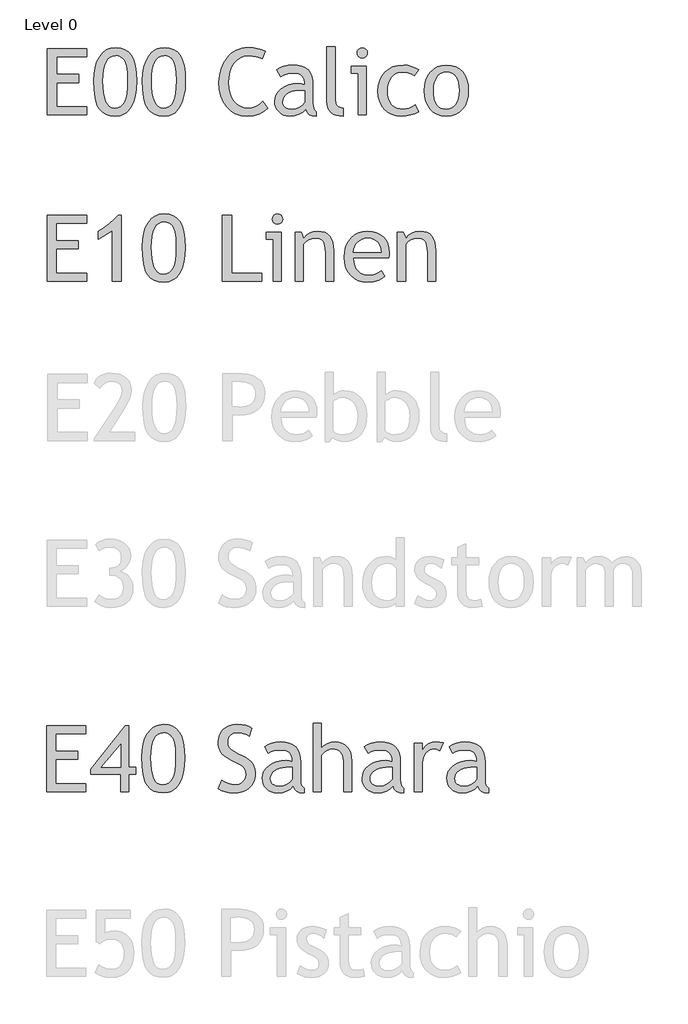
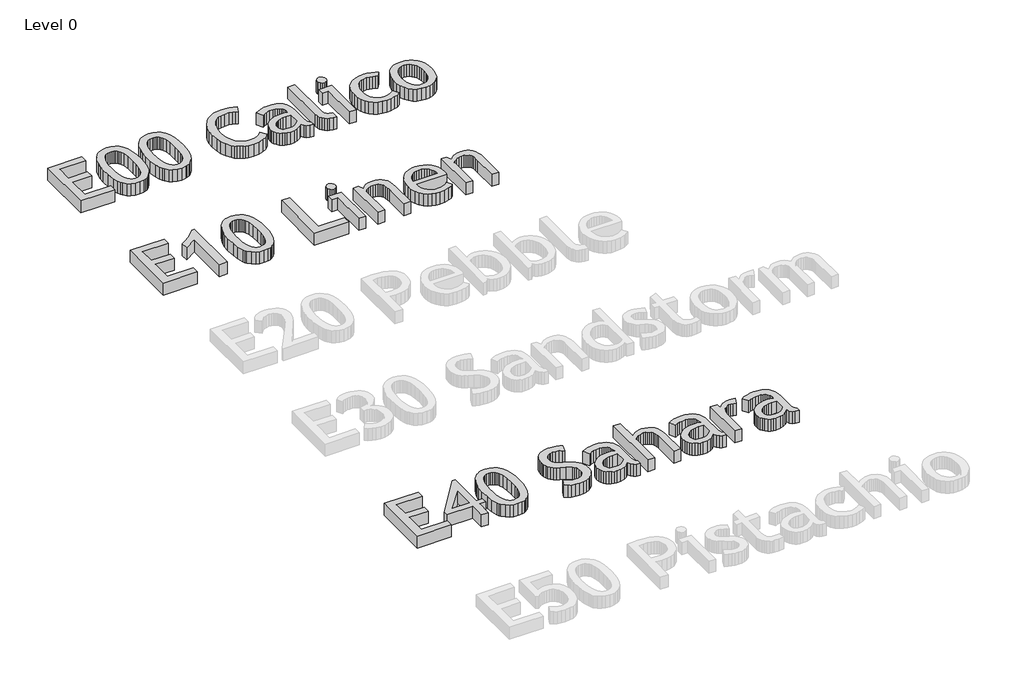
# One storey, part 3 of 5: 3 proxies.
"""IFC4 building model written with IfcOpenShell, lengths in millimetres."""

import ifcopenshell
import ifcopenshell.guid

model = None  # the IFC model being written
_history = None  # IfcOwnerHistory: only IFC2X3 demands one
_inside = {}  # id of a spatial element -> (the spatial element, [elements in it])
_under = {}  # id of a project, library or spatial element -> (it, [spatial elements below it])
_declared = {}  # id of a project -> (the project, [libraries it declares])
_typed = {}  # id of a type object -> (the type object, [elements of that type])
_made_of = {}  # id of a material, layer set ... -> (it, [elements and type objects made of it])


def new_model(schema):
    """Start an empty IFC model of exactly this schema.

    Asked for "IFC4X3", IfcOpenShell would pick the latest addendum, in which some entities
    have other attributes; the version numbers below select the first issue.
    IFC2X3 requires an IfcOwnerHistory on every rooted entity: one is made here for all.
    """
    global model, _history
    if schema == "IFC4X3":
        model = ifcopenshell.file(schema_version=(4, 3, 0, 0))
    else:
        model = ifcopenshell.file(schema=schema)
    _inside.clear()
    _under.clear()
    _declared.clear()
    _typed.clear()
    _made_of.clear()
    _history = None
    if model.schema == "IFC2X3":
        org = make("IfcOrganization", Name="unknown")
        user = make(
            "IfcPersonAndOrganization",
            ThePerson=make("IfcPerson", FamilyName="unknown"),
            TheOrganization=org,
        )
        app = make(
            "IfcApplication",
            ApplicationDeveloper=org,
            Version="unknown",
            ApplicationFullName="unknown",
            ApplicationIdentifier="unknown",
        )
        _history = make(
            "IfcOwnerHistory",
            OwningUser=user,
            OwningApplication=app,
            ChangeAction="ADDED",
            CreationDate=0,
        )
    return model


def make(cls, **values):
    """One entity of the class cls with the attributes given. An attribute that is None is left unset."""
    return model.create_entity(
        cls, **{name: value for name, value in values.items() if value is not None}
    )


def rooted(cls, **values):
    """An entity with a GlobalId (a new one), such as an element, a storey or a relation."""
    return make(cls, GlobalId=ifcopenshell.guid.new(), OwnerHistory=_history, **values)


def si_unit(unit_type, name, prefix=None):
    """IfcSIUnit, for example si_unit("LENGTHUNIT", "METRE", prefix="MILLI")."""
    return make("IfcSIUnit", UnitType=unit_type, Prefix=prefix, Name=name)


def assignment(units):
    """IfcUnitAssignment: the units of a project."""
    return None if units is None else make("IfcUnitAssignment", Units=units)


def point(xyz):
    """IfcCartesianPoint."""
    return None if xyz is None else make("IfcCartesianPoint", Coordinates=xyz)


def direction(xyz):
    """IfcDirection."""
    return None if xyz is None else make("IfcDirection", DirectionRatios=xyz)


def frame(location, z_axis=None, x_axis=None):
    """IfcAxis2Placement3D, a coordinate frame: its origin and axes. An axis left out is left unset."""
    return make(
        "IfcAxis2Placement3D",
        Location=point(location),
        Axis=direction(z_axis),
        RefDirection=direction(x_axis),
    )


def origin():
    """The frame at (0, 0, 0) with its axes left unset."""
    return frame((0.0, 0.0, 0.0))


def origin_with_axes():
    """The frame at (0, 0, 0) with the z axis (0, 0, 1) and the x axis (1, 0, 0) written out."""
    return frame((0.0, 0.0, 0.0), z_axis=(0.0, 0.0, 1.0), x_axis=(1.0, 0.0, 0.0))


def place(relative_to, where):
    """IfcLocalPlacement: puts the frame where relative to a parent placement (None: the world)."""
    return make(
        "IfcLocalPlacement", PlacementRelTo=relative_to, RelativePlacement=where
    )


def context(
    kind, dimensions, precision=None, world=None, true_north=None, identifier=None
):
    """IfcGeometricRepresentationContext, for example the 3D "Model" context."""
    return make(
        "IfcGeometricRepresentationContext",
        ContextIdentifier=identifier,
        ContextType=kind,
        CoordinateSpaceDimension=dimensions,
        Precision=precision,
        WorldCoordinateSystem=world,
        TrueNorth=true_north,
    )


def project(units=None, contexts=None):
    """IfcProject with its units and contexts."""
    return rooted(
        "IfcProject",
        Name="project",
        RepresentationContexts=contexts,
        UnitsInContext=assignment(units),
    )


def spatial(cls, under=None, at=None, **own):
    """A site, building, storey or space (cls), placed at a placement, below another one or the project."""
    s = rooted(cls, ObjectPlacement=at, **own)
    if under is not None:
        _under.setdefault(under.id(), (under, []))[1].append(s)
    return s


def polyline(points):
    """IfcPolyline through the points."""
    return make("IfcPolyline", Points=[point(p) for p in points])


def outline(outer, holes=None, kind="AREA"):
    """IfcArbitraryClosedProfileDef: a profile drawn as a closed curve; with holes, ...WithVoids."""
    if holes is None:
        return make("IfcArbitraryClosedProfileDef", ProfileType=kind, OuterCurve=outer)
    return make(
        "IfcArbitraryProfileDefWithVoids",
        ProfileType=kind,
        OuterCurve=outer,
        InnerCurves=holes,
    )


def extrude(swept, where, along, depth):
    """IfcExtrudedAreaSolid: the profile swept, set in the frame where, extruded along a direction by depth."""
    return make(
        "IfcExtrudedAreaSolid",
        SweptArea=swept,
        Position=where,
        ExtrudedDirection=direction(along),
        Depth=depth,
    )


def shape(context_of_items, identifier, shape_type, items):
    """IfcShapeRepresentation: the items that make up one representation, for example the "Body"."""
    return make(
        "IfcShapeRepresentation",
        ContextOfItems=context_of_items,
        RepresentationIdentifier=identifier,
        RepresentationType=shape_type,
        Items=items,
    )


def made_of(thing, what):
    """Note that an element or type object is made of a material, layer set ...; save() writes the relation."""
    if what is not None:
        _made_of.setdefault(what.id(), (what, []))[1].append(thing)
    return thing


def element(
    cls,
    number,
    at=None,
    inside=None,
    cuts=None,
    type_object=None,
    material=None,
    context=None,
    identifier="Body",
    shape_type=None,
    held_by="IfcProductDefinitionShape",
    body=None,
    shapes=None,
    **own,
):
    """One element of the class cls, such as IfcWall. Its Tag is "e" and its number.

    at: its placement. inside: the storey or other place that contains it. cuts: it is an
    opening in that element (IfcRelVoidsElement). A single representation is given by context,
    identifier, shape_type and body (its items); several are given by shapes. held_by: the class
    of the entity that holds the representations. save() writes the other relations.
    """
    e = rooted(cls, Tag="e%d" % number, ObjectPlacement=at, **own)
    if body is not None:
        shapes = [shape(context, identifier, shape_type, body)]
    if shapes is not None:
        e.Representation = make(held_by, Representations=shapes)
    if inside is not None:
        _inside.setdefault(inside.id(), (inside, []))[1].append(e)
    if cuts is not None:
        rooted(
            "IfcRelVoidsElement", RelatingBuildingElement=cuts, RelatedOpeningElement=e
        )
    if type_object is not None:
        _typed.setdefault(type_object.id(), (type_object, []))[1].append(e)
    return made_of(e, material)


def aggregate(whole, parts):
    """IfcRelAggregates: a whole, such as a stair, and the parts it consists of."""
    return rooted("IfcRelAggregates", RelatingObject=whole, RelatedObjects=parts)


def save(model, path):
    """Write the relations noted so far, then the file.

    IfcRelAggregates (storeys below a building ...), IfcRelContainedInSpatialStructure (elements
    in a storey), IfcRelDefinesByType, IfcRelAssociatesMaterial and IfcRelDeclares: one each for
    every whole, place, type object, material and project.
    """
    for whole, parts in _under.values():
        aggregate(whole, parts)
    for where, things in _inside.values():
        rooted(
            "IfcRelContainedInSpatialStructure",
            RelatedElements=things,
            RelatingStructure=where,
        )
    for kind, things in _typed.values():
        rooted("IfcRelDefinesByType", RelatedObjects=things, RelatingType=kind)
    for what, things in _made_of.values():
        rooted("IfcRelAssociatesMaterial", RelatedObjects=things, RelatingMaterial=what)
    for by, libraries in _declared.values():
        rooted("IfcRelDeclares", RelatingContext=by, RelatedDefinitions=libraries)
    model.write(path)


model = new_model("IFC4")

# Units and contexts
model_context = context("Model", 3, world=origin())
ifc_project = project(units=[si_unit("LENGTHUNIT", "METRE", prefix="MILLI")], contexts=[model_context])

# Site, building, storey
site = spatial("IfcSite", under=ifc_project)
building = spatial("IfcBuilding", under=site)
storey = spatial("IfcBuildingStorey", under=building, Name="Level 0", Elevation=0.0)

# Proxies
placement = place(None, origin())
element("IfcBuildingElementProxy", 1, Name="600mm Arial", ObjectType="600mm Arial", at=placement, inside=storey, context=model_context, shape_type="SweptSolid", body=[
    extrude(outline(polyline([(-18097.6502143, 6574.8338148), (-18097.6502143, 6396.8677131), (-17872.2264855, 6396.8677131), (-17872.2264855, 6313.8168656), (-18097.6502143, 6313.8168656), (-18097.6502143, 6064.6643233), (-17789.1756381, 6064.6643233), (-17789.1756381, 5981.6134758), (-18192.5654686, 5981.6134758), (-18192.5654686, 6657.8846623), (-17789.1756381, 6657.8846623), (-17789.1756381, 6574.8338148), (-18097.6502143, 6574.8338148)])), origin_with_axes(), (0.0, 0.0, 1.0), 150.0),
    extrude(outline(polyline([(-17717.9891974, 6339.0287301), (-17714.2873634, 6408.7842584), (-17703.1818616, 6471.7849536), (-17684.6726918, 6528.0308156), (-17658.7598542, 6577.5218445), (-17626.1385287, 6617.8712552), (-17607.5728756, 6633.7228094), (-17587.5038955, 6646.6922629), (-17565.9315885, 6656.7796156), (-17542.8559545, 6663.9848675), (-17492.1947059, 6669.749069), (-17442.3039485, 6664.9407401), (-17399.0405745, 6650.5157534), (-17362.4045841, 6626.4741088), (-17332.3959771, 6592.8158063), (-17309.0379262, 6547.1772338), (-17292.3536042, 6487.1947788), (-17282.343011, 6412.8684414), (-17279.0061466, 6324.1982216), (-17282.5052196, 6246.0947391), (-17293.0024389, 6176.7736983), (-17310.4978044, 6116.2350992), (-17334.991316, 6064.4789419), (-17366.2164882, 6023.0346225), (-17384.2535148, 6006.7529256), (-17403.9068351, 5993.4315373), (-17425.1764491, 5983.0704574), (-17448.0623568, 5975.6696861), (-17498.6830533, 5969.749069), (-17549.3674747, 5974.5284321), (-17593.5287896, 5988.8665214), (-17631.166998, 6012.7633368), (-17662.2820999, 6046.2188784), (-17675.3384509, 6067.5218031), (-17686.6539551, 6093.1956726), (-17704.062423, 6157.6562459), (-17714.5075038, 6239.6005984), (-17717.9891974, 6339.0287301)]), holes=[polyline([(-17623.0739432, 6330.5011877), (-17621.2288194, 6265.4149522), (-17615.6934479, 6209.0068815), (-17606.4678289, 6161.2769756), (-17593.5519622, 6122.2252343), (-17576.945848, 6091.8516578), (-17556.6494861, 6070.1562459), (-17532.6628766, 6057.1389989), (-17504.9860194, 6052.7999165), (-17473.4769821, 6056.6465796), (-17446.4286836, 6068.186569), (-17423.841124, 6087.4198847), (-17405.7143033, 6114.3465267), (-17391.8049085, 6150.9014128), (-17381.8696264, 6199.019461), (-17375.9084572, 6258.7006713), (-17373.9214008, 6329.9450436), (-17376.9801932, 6422.0564048), (-17386.1565703, 6485.9434546), (-17402.1457122, 6529.6471093), (-17412.9557625, 6546.9455071), (-17425.6427991, 6561.2082851), (-17440.1720629, 6572.3601323), (-17456.5087949, 6580.3257375), (-17474.6529951, 6585.1051006), (-17494.6046635, 6586.6982216), (-17524.7146509, 6582.6951429), (-17550.8099734, 6570.685907), (-17572.8906308, 6550.6705137), (-17590.9566232, 6522.6489631), (-17605.0079507, 6486.6212552), (-17615.0446132, 6442.58739), (-17621.0666107, 6390.5473675), (-17623.0739432, 6330.5011877)])]), origin_with_axes(), (0.0, 0.0, 1.0), 150.0),
    extrude(outline(polyline([(-17219.6841127, 6339.0287301), (-17215.9822787, 6408.7842584), (-17204.8767768, 6471.7849536), (-17186.3676071, 6528.0308156), (-17160.4547694, 6577.5218445), (-17127.833444, 6617.8712552), (-17109.2677908, 6633.7228094), (-17089.1988107, 6646.6922629), (-17067.6265037, 6656.7796156), (-17044.5508698, 6663.9848675), (-16993.8896211, 6669.749069), (-16943.9988637, 6664.9407401), (-16900.7354898, 6650.5157534), (-16864.0994993, 6626.4741088), (-16834.0908923, 6592.8158063), (-16810.7328415, 6547.1772338), (-16794.0485194, 6487.1947788), (-16784.0379262, 6412.8684414), (-16780.7010618, 6324.1982216), (-16784.2001349, 6246.0947391), (-16794.6973542, 6176.7736983), (-16812.1927196, 6116.2350992), (-16836.6862313, 6064.4789419), (-16867.9114034, 6023.0346225), (-16885.9484301, 6006.7529256), (-16905.6017504, 5993.4315373), (-16926.8713644, 5983.0704574), (-16949.7572721, 5975.6696861), (-17000.3779686, 5969.749069), (-17051.0623899, 5974.5284321), (-17095.2237048, 5988.8665214), (-17132.8619132, 6012.7633368), (-17163.9770152, 6046.2188784), (-17177.0333662, 6067.5218031), (-17188.3488703, 6093.1956726), (-17205.7573383, 6157.6562459), (-17216.2024191, 6239.6005984), (-17219.6841127, 6339.0287301)]), holes=[polyline([(-17124.7688584, 6330.5011877), (-17122.9237346, 6265.4149522), (-17117.3883632, 6209.0068815), (-17108.1627441, 6161.2769756), (-17095.2468775, 6122.2252343), (-17078.6407632, 6091.8516578), (-17058.3444013, 6070.1562459), (-17034.3577918, 6057.1389989), (-17006.6809347, 6052.7999165), (-16975.1718973, 6056.6465796), (-16948.1235989, 6068.186569), (-16925.5360393, 6087.4198847), (-16907.4092186, 6114.3465267), (-16893.4998237, 6150.9014128), (-16883.5645417, 6199.019461), (-16877.6033725, 6258.7006713), (-16875.616316, 6329.9450436), (-16878.6751084, 6422.0564048), (-16887.8514855, 6485.9434546), (-16903.8406275, 6529.6471093), (-16914.6506778, 6546.9455071), (-16927.3377143, 6561.2082851), (-16941.8669781, 6572.3601323), (-16958.2037101, 6580.3257375), (-16976.3479103, 6585.1051006), (-16996.2995788, 6586.6982216), (-17026.4095662, 6582.6951429), (-17052.5048886, 6570.685907), (-17074.585546, 6550.6705137), (-17092.6515385, 6522.6489631), (-17106.702866, 6486.6212552), (-17116.7395284, 6442.58739), (-17122.7615259, 6390.5473675), (-17124.7688584, 6330.5011877)])]), origin_with_axes(), (0.0, 0.0, 1.0), 150.0),
    extrude(outline(polyline([(-15962.056994, 6634.1558487), (-15994.1279686, 6554.8126284), (-16020.3130851, 6568.7625754), (-16053.0792398, 6578.7268233), (-16092.4264326, 6584.705372), (-16138.3546635, 6586.6982216), (-16182.1394225, 6581.901479), (-16221.3591656, 6567.5112512), (-16256.0138928, 6543.5275383), (-16286.1036042, 6509.9503402), (-16310.4349071, 6468.8072655), (-16327.8144093, 6422.1259229), (-16338.2421105, 6369.9063122), (-16341.718011, 6312.1484334), (-16338.1957652, 6257.0496186), (-16327.6290279, 6207.43114), (-16310.0177991, 6163.2929978), (-16285.3620788, 6124.6351919), (-16255.1333314, 6093.2072589), (-16220.8030216, 6070.7587354), (-16182.3711492, 6057.2896212), (-16139.8377143, 6052.7999165), (-16093.9905878, 6057.2374827), (-16053.7744199, 6070.5501813), (-16019.1892106, 6092.7380124), (-15990.2349601, 6123.8009758), (-15938.3281805, 6052.7999165), (-15981.9507308, 6016.4651707), (-16031.4359665, 5990.5117809), (-16086.7838875, 5974.939747), (-16147.994494, 5969.749069), (-16211.5397469, 5975.7276178), (-16240.6402749, 5983.2008037), (-16267.959404, 5993.663264), (-16293.497134, 6007.1149986), (-16317.2534651, 6023.5560076), (-16339.2283973, 6042.986291), (-16359.4219305, 6065.4058487), (-16393.2018894, 6117.0461427), (-16417.3304315, 6176.3102449), (-16431.8075568, 6243.1981554), (-16436.6332652, 6317.7098741), (-16431.4367941, 6390.2403296), (-16415.8473807, 6456.3751284), (-16389.865025, 6516.1142703), (-16353.4897271, 6569.4577555), (-16331.9463859, 6592.9635321), (-16308.8881315, 6613.3352052), (-16284.3149638, 6630.5727747), (-16258.2268828, 6644.6762406), (-16230.6238885, 6655.6456031), (-16201.505981, 6663.4808619), (-16170.8731603, 6668.1820173), (-16138.7254262, 6669.749069), (-16085.347182, 6667.5244928), (-16038.1096953, 6660.850764), (-15997.0129659, 6649.7278826), (-15962.056994, 6634.1558487)])), origin_with_axes(), (0.0, 0.0, 1.0), 150.0),
    extrude(outline(polyline([(-15550.8811466, 6040.9355097), (-15581.839833, 6009.7914419), (-15620.0283923, 5987.5456792), (-15665.4468245, 5974.1982216), (-15718.0951296, 5969.749069), (-15747.3042795, 5972.4370987), (-15774.4974071, 5980.5011877), (-15799.6745125, 5993.941336), (-15822.8355957, 6012.7575436), (-15842.2195337, 6035.5710367), (-15856.0652038, 6061.0030415), (-15864.3726058, 6089.0535579), (-15867.1417398, 6119.722586), (-15862.8605891, 6156.5207851), (-15850.017137, 6190.3528826), (-15828.6113836, 6221.2188784), (-15798.6433288, 6249.1187724), (-15762.0363041, 6272.2335102), (-15720.7136413, 6288.7440373), (-15674.6753401, 6298.6503535), (-15623.9214008, 6301.9524589), (-15593.2407864, 6298.9863572), (-15558.6671635, 6290.0880521), (-15560.4282864, 6317.8952555), (-15565.711655, 6341.9948318), (-15574.5172694, 6362.3867809), (-15586.8451296, 6379.0711029), (-15602.6952355, 6392.0477979), (-15622.0675872, 6401.3168656), (-15644.9621847, 6406.8783063), (-15671.3790279, 6408.7321199), (-15712.1629262, 6406.5075436), (-15747.9415279, 6399.8338148), (-15778.714833, 6388.7109334), (-15804.4828415, 6373.1388995), (-15843.4129262, 6444.3253402), (-15812.9176932, 6462.4231951), (-15772.5972482, 6477.786675), (-15728.3374495, 6488.2838943), (-15686.024155, 6491.7829673), (-15634.5634493, 6488.6836228), (-15590.6686201, 6479.3855892), (-15554.3396675, 6463.8888664), (-15525.5765915, 6442.1934546), (-15503.718971, 6413.754796), (-15488.1063849, 6378.0283328), (-15478.7388333, 6335.0140651), (-15475.616316, 6284.7119928), (-15475.616316, 6105.0774589), (-15473.3917398, 6074.9066432), (-15466.718011, 6050.2045775), (-15455.5951296, 6030.9712618), (-15440.0230957, 6017.2066962), (-15440.0230957, 5969.749069), (-15483.9353044, 5973.8738042), (-15515.1952355, 5986.2480097), (-15536.5836095, 6008.1693551), (-15550.8811466, 6040.9355097)]), holes=[polyline([(-15558.6671635, 6230.7660182), (-15621.5114432, 6230.7660182), (-15655.737476, 6228.6573053), (-15686.6729898, 6222.3311665), (-15714.3179845, 6211.7876019), (-15738.6724601, 6197.0266114), (-15758.5430242, 6179.3806236), (-15772.7362843, 6160.1820669), (-15781.2522403, 6139.4309414), (-15784.0908923, 6117.127247), (-15782.555703, 6099.2698086), (-15777.9501349, 6083.7933619), (-15770.2741881, 6070.6979071), (-15759.5278627, 6059.983444), (-15745.7111585, 6051.6499728), (-15728.8240756, 6045.6974933), (-15685.8387737, 6040.9355097), (-15650.9870788, 6045.3846623), (-15618.1745788, 6058.7321199), (-15587.4012737, 6080.9778826), (-15558.6671635, 6112.1219504), (-15558.6671635, 6230.7660182)])]), origin_with_axes(), (0.0, 0.0, 1.0), 150.0),
    extrude(outline(polyline([(-15333.2434347, 6120.0933487), (-15333.2434347, 6681.6134758), (-15250.1925872, 6681.6134758), (-15250.1925872, 6138.2607216), (-15244.4457652, 6102.7833646), (-15237.2622377, 6088.190376), (-15227.2052991, 6075.694514), (-15214.8310936, 6065.6781276), (-15200.6957652, 6058.5235659), (-15167.1417398, 6052.7999165), (-15167.1417398, 5969.749069), (-15206.0718245, 5972.0981984), (-15239.8112313, 5979.1455865), (-15268.3599601, 5990.8912334), (-15291.718011, 6007.335139), (-15309.8853838, 6028.4773033), (-15322.8620788, 6054.3177263), (-15330.6480957, 6084.8564082), (-15333.2434347, 6120.0933487)])), origin_with_axes(), (0.0, 0.0, 1.0), 150.0),
    extrude(outline(polyline([(-15012.9044516, 5981.6134758), (-15012.9044516, 6408.7321199), (-15084.0908923, 6408.7321199), (-15084.0908923, 6479.9185606), (-14929.8536042, 6479.9185606), (-14929.8536042, 5981.6134758), (-15012.9044516, 5981.6134758)])), origin_with_axes(), (0.0, 0.0, 1.0), 150.0),
    extrude(outline(polyline([(-14971.5644093, 6669.749069), (-14950.9639061, 6665.8328879), (-14933.653922, 6654.0843445), (-14921.9053785, 6636.867051), (-14917.9891974, 6616.5446199), (-14921.9053785, 6595.9441167), (-14933.653922, 6578.6341326), (-14950.9639061, 6566.8855892), (-14971.5644093, 6562.969408), (-14991.8868404, 6566.8855892), (-15009.1041338, 6578.6341326), (-15020.8526773, 6595.9441167), (-15024.7688584, 6616.5446199), (-15020.8990226, 6637.0987777), (-15009.2895152, 6654.2697258), (-14992.1185671, 6665.8792332), (-14971.5644093, 6669.749069)])), origin_with_axes(), (0.0, 0.0, 1.0), 150.0),
    extrude(outline(polyline([(-14395.9552991, 6444.3253402), (-14440.4468245, 6385.0033063), (-14459.2862048, 6397.4470298), (-14488.7386677, 6409.1955733), (-14523.1964273, 6417.7462883), (-14557.0516974, 6420.5965267), (-14591.7759426, 6417.3407666), (-14622.7230427, 6407.5734864), (-14649.8929977, 6391.2946861), (-14673.2858076, 6368.5043656), (-14692.1020152, 6340.0483275), (-14705.5421635, 6306.7723741), (-14713.6062525, 6268.6765055), (-14716.2942821, 6225.7607216), (-14713.5714935, 6183.3083911), (-14705.4031275, 6146.2321199), (-14691.7891842, 6114.531908), (-14672.7296635, 6088.2077555), (-14648.8386413, 6067.526148), (-14620.7301932, 6052.7535712), (-14588.4043192, 6043.8900251), (-14551.8610194, 6040.9355097), (-14521.8524124, 6043.9016114), (-14491.7047694, 6052.7999165), (-14461.4180904, 6067.630425), (-14430.9923754, 6088.3931368), (-14395.9552991, 6017.2066962), (-14434.0511677, 5996.4439843), (-14476.4108076, 5981.6134758), (-14523.0342186, 5972.7151707), (-14573.9214008, 5969.749069), (-14623.1343576, 5974.0649787), (-14667.8865756, 5987.0127078), (-14708.1780547, 6008.5922563), (-14744.0087949, 6038.8036241), (-14773.4091193, 6076.3839009), (-14794.409351, 6120.070176), (-14807.00949, 6169.8624496), (-14811.2095364, 6225.7607216), (-14806.8183155, 6282.9508699), (-14793.6446529, 6334.2088148), (-14771.6885486, 6379.5345563), (-14740.9500025, 6418.9280945), (-14702.5876481, 6450.8021013), (-14657.760119, 6473.5692491), (-14606.4674151, 6487.2295378), (-14548.7095364, 6491.7829673), (-14507.7634294, 6487.9131315), (-14463.5268033, 6476.3036241), (-14423.6929845, 6460.5693815), (-14395.9552991, 6444.3253402)])), origin_with_axes(), (0.0, 0.0, 1.0), 150.0),
    extrude(outline(polyline([(-14336.6332652, 6231.8783063), (-14332.7518431, 6287.3710566), (-14321.1075766, 6337.2444345), (-14301.7004659, 6381.4984401), (-14274.530511, 6420.1330733), (-14241.0228309, 6451.4799019), (-14202.6025449, 6473.8704938), (-14159.2696529, 6487.304849), (-14111.024155, 6491.7829673), (-14060.455597, 6487.478644), (-14015.9003468, 6474.5656739), (-13977.3584042, 6453.0440571), (-13944.8297694, 6422.9137936), (-13918.9980361, 6385.1481355), (-13900.546798, 6340.7203349), (-13889.4760552, 6289.6303919), (-13885.7858076, 6231.8783063), (-13889.5687459, 6174.2826363), (-13900.9175607, 6123.1057957), (-13919.8322522, 6078.3477846), (-13946.3128203, 6040.0086029), (-13979.3049085, 6009.2700569), (-14017.7541603, 5987.3139525), (-14061.6605758, 5974.1402899), (-14111.024155, 5969.749069), (-14161.3030547, 5974.1808421), (-14205.7308552, 5987.4761612), (-14244.3075568, 6009.6350264), (-14277.0331593, 6040.6574377), (-14303.1082056, 6079.1993802), (-14321.7332387, 6123.9168392), (-14332.9082586, 6174.8098145), (-14336.6332652, 6231.8783063)]), holes=[polyline([(-14241.718011, 6231.8783063), (-14239.6759195, 6187.1260884), (-14233.549645, 6148.3408328), (-14223.3391875, 6115.5225396), (-14209.044547, 6088.6712089), (-14190.6657235, 6067.7868405), (-14168.202717, 6052.8694345), (-14141.6555275, 6043.9189909), (-14111.024155, 6040.9355097), (-14082.1741815, 6044.1333381), (-14056.6147271, 6053.7268233), (-14034.3457917, 6069.7159652), (-14015.3673754, 6092.100764), (-14000.2008632, 6120.0238307), (-13989.3676402, 6152.6277767), (-13982.8677064, 6189.9126019), (-13980.7010618, 6231.8783063), (-13982.7373601, 6276.1091392), (-13988.8462551, 6314.4425277), (-13999.0277468, 6346.8784718), (-14013.2818351, 6373.4169716), (-14031.6085201, 6394.0580269), (-14054.0078017, 6408.8016379), (-14080.4796801, 6417.6478045), (-14111.024155, 6420.5965267), (-14139.2832255, 6417.45663), (-14164.5530216, 6408.0369398), (-14186.8335433, 6392.3374562), (-14206.1247906, 6370.3581792), (-14221.6968245, 6342.8638069), (-14232.8197059, 6310.6190373), (-14239.4934347, 6273.6238704), (-14241.718011, 6231.8783063)])]), origin_with_axes(), (0.0, 0.0, 1.0), 150.0),
])
element("IfcBuildingElementProxy", 2, Name="600mm Arial", ObjectType="600mm Arial", at=placement, inside=storey, context=model_context, shape_type="SweptSolid", body=[
    extrude(outline(polyline([(-18099.8307943, 4875.7002838), (-18099.8307943, 4697.7341821), (-17874.4070655, 4697.7341821), (-17874.4070655, 4614.6833346), (-18099.8307943, 4614.6833346), (-18099.8307943, 4365.5307922), (-17791.356218, 4365.5307922), (-17791.356218, 4282.4799448), (-18194.7460485, 4282.4799448), (-18194.7460485, 4958.7511312), (-17791.356218, 4958.7511312), (-17791.356218, 4875.7002838), (-18099.8307943, 4875.7002838)])), origin_with_axes(), (0.0, 0.0, 1.0), 150.0),
    extrude(outline(polyline([(-17530.3392689, 4282.4799448), (-17530.3392689, 4796.3570634), (-17672.7121502, 4709.5985889), (-17672.7121502, 4792.6494363), (-17618.1868589, 4825.0680009), (-17560.2783579, 4867.8215761), (-17507.3751534, 4914.5145052), (-17467.8657519, 4958.7511312), (-17435.4240146, 4958.7511312), (-17435.4240146, 4282.4799448), (-17530.3392689, 4282.4799448)])), origin_with_axes(), (0.0, 0.0, 1.0), 150.0),
    extrude(outline(polyline([(-17221.8646926, 4639.895199), (-17218.1628587, 4709.6507274), (-17207.0573568, 4772.6514225), (-17188.548187, 4828.8972846), (-17162.6353494, 4878.3883134), (-17130.0140239, 4918.7377242), (-17111.4483708, 4934.5892784), (-17091.3793907, 4947.5587319), (-17069.8070837, 4957.6460846), (-17046.7314498, 4964.8513365), (-16996.0702011, 4970.615538), (-16946.1794437, 4965.8072091), (-16902.9160697, 4951.3822223), (-16866.2800793, 4927.3405777), (-16836.2714723, 4893.6822753), (-16812.9134214, 4848.0437027), (-16796.2290994, 4788.0612478), (-16786.2185062, 4713.7349104), (-16782.8816418, 4625.0646906), (-16786.3807149, 4546.961208), (-16796.8779341, 4477.6401672), (-16814.3732996, 4417.1015682), (-16838.8668113, 4365.3454109), (-16870.0919834, 4323.9010915), (-16888.12901, 4307.6193946), (-16907.7823303, 4294.2980062), (-16929.0519443, 4283.9369264), (-16951.937852, 4276.5361551), (-17002.5585485, 4270.615538), (-17053.2429699, 4275.3949011), (-17097.4042848, 4289.7329903), (-17135.0424932, 4313.6298058), (-17166.1575952, 4347.0853473), (-17179.2139461, 4368.3882721), (-17190.5294503, 4394.0621416), (-17207.9379182, 4458.5227149), (-17218.382999, 4540.4670674), (-17221.8646926, 4639.895199)]), holes=[polyline([(-17126.9494384, 4631.3676567), (-17125.1043146, 4566.2814212), (-17119.5689431, 4509.8733505), (-17110.3433241, 4462.1434445), (-17097.4274574, 4423.0917033), (-17080.8213432, 4392.7181267), (-17060.5249813, 4371.0227149), (-17036.5383718, 4358.0054678), (-17008.8615146, 4353.6663855), (-16977.3524773, 4357.5130486), (-16950.3041788, 4369.053038), (-16927.7166193, 4388.2863537), (-16909.5897985, 4415.2129956), (-16895.6804037, 4451.7678818), (-16885.7451216, 4499.88593), (-16879.7839524, 4559.5671402), (-16877.796896, 4630.8115126), (-16880.8556884, 4722.9228738), (-16890.0320655, 4786.8099236), (-16906.0212074, 4830.5135783), (-16916.8312578, 4847.811976), (-16929.5182943, 4862.0747541), (-16944.0475581, 4873.2266013), (-16960.3842901, 4881.1922064), (-16978.5284903, 4885.9715695), (-16998.4801587, 4887.5646906), (-17028.5901461, 4883.5616119), (-17054.6854686, 4871.5523759), (-17076.766126, 4851.5369827), (-17094.8321185, 4823.5154321), (-17108.8834459, 4787.4877242), (-17118.9201084, 4743.453859), (-17124.9421059, 4691.4138365), (-17126.9494384, 4631.3676567)])]), origin_with_axes(), (0.0, 0.0, 1.0), 150.0),
    extrude(outline(polyline([(-16403.2206248, 4282.4799448), (-16403.2206248, 4958.7511312), (-16308.3053706, 4958.7511312), (-16308.3053706, 4365.5307922), (-15999.8307943, 4365.5307922), (-15999.8307943, 4282.4799448), (-16403.2206248, 4282.4799448)])), origin_with_axes(), (0.0, 0.0, 1.0), 150.0),
    extrude(outline(polyline([(-15839.8466841, 4970.615538), (-15819.246181, 4966.6993569), (-15801.9361968, 4954.9508134), (-15790.1876534, 4937.73352), (-15786.2714723, 4917.4110889), (-15790.1876534, 4896.8105857), (-15801.9361968, 4879.5006016), (-15819.246181, 4867.7520581), (-15839.8466841, 4863.835877), (-15860.1691153, 4867.7520581), (-15877.3864087, 4879.5006016), (-15889.1349521, 4896.8105857), (-15893.0511333, 4917.4110889), (-15889.1812975, 4937.9652467), (-15877.5717901, 4955.1361948), (-15860.400842, 4966.7457022), (-15839.8466841, 4970.615538)])), origin_with_axes(), (0.0, 0.0, 1.0), 150.0),
    extrude(outline(polyline([(-15881.1867265, 4282.4799448), (-15881.1867265, 4709.5985889), (-15952.3731672, 4709.5985889), (-15952.3731672, 4780.7850295), (-15798.1358791, 4780.7850295), (-15798.1358791, 4282.4799448), (-15881.1867265, 4282.4799448)])), origin_with_axes(), (0.0, 0.0, 1.0), 150.0),
    extrude(outline(polyline([(-15347.2884214, 4282.4799448), (-15347.2884214, 4576.3093939), (-15348.8351971, 4613.6058055), (-15353.4755242, 4644.8541503), (-15361.2094026, 4670.0544284), (-15372.0368324, 4689.2066397), (-15386.5023714, 4703.3187954), (-15405.1505771, 4713.3989067), (-15427.9814498, 4719.4469734), (-15454.9949892, 4721.4629956), (-15486.8805824, 4716.8748071), (-15520.2492265, 4703.1102414), (-15550.4200422, 4682.6256016), (-15572.7121502, 4657.8771906), (-15572.7121502, 4282.4799448), (-15655.7629977, 4282.4799448), (-15655.7629977, 4780.7850295), (-15595.8848197, 4780.7850295), (-15568.0776163, 4716.8284617), (-15543.039547, 4750.0001381), (-15511.1191947, 4773.6941927), (-15472.3165597, 4787.9106254), (-15426.6316418, 4792.6494363), (-15388.5705321, 4789.5211259), (-15355.5842371, 4780.1361948), (-15327.6727567, 4764.4946429), (-15304.8360909, 4742.5964702), (-15287.0742397, 4714.4416768), (-15274.3872032, 4680.0302626), (-15266.7749813, 4639.3622276), (-15264.237574, 4592.4375719), (-15264.237574, 4282.4799448), (-15347.2884214, 4282.4799448)])), origin_with_axes(), (0.0, 0.0, 1.0), 150.0),
    extrude(outline(polyline([(-14701.7905401, 4519.7680804), (-15062.5426587, 4519.7680804), (-15059.5533843, 4477.9414119), (-15050.5855613, 4441.2590761), (-15035.6391894, 4409.721073), (-15014.7142689, 4383.3274024), (-14991.9934664, 4365.1600295), (-14966.2833896, 4352.1833346), (-14937.5840385, 4344.3973177), (-14905.8954129, 4341.8019787), (-14869.5606672, 4344.7680804), (-14836.3774045, 4353.6663855), (-14806.3456248, 4368.4968939), (-14779.4653282, 4389.2596058), (-14742.2036757, 4329.9375719), (-14768.2497562, 4309.3602414), (-14805.2333367, 4291.7490126), (-14861.4965782, 4275.8989067), (-14923.8774045, 4270.615538), (-14969.272664, 4274.6359962), (-15011.0993324, 4286.6973706), (-15049.3574098, 4306.7996614), (-15084.046896, 4334.9428685), (-15116.1642159, 4373.4906042), (-15139.1051587, 4418.132752), (-15152.8697244, 4468.8693118), (-15157.4579129, 4525.7002838), (-15152.7422747, 4584.9064543), (-15138.59536, 4637.9486948), (-15115.0171688, 4684.8270052), (-15082.0077011, 4725.5413855), (-15046.7157254, 4754.9011577), (-15008.3186121, 4775.8724236), (-14966.816361, 4788.4551831), (-14922.2089723, 4792.6494363), (-14871.3681354, 4788.8143595), (-14826.3668113, 4777.3091291), (-14787.2049998, 4758.1337451), (-14753.8827011, 4731.2882075), (-14728.0104156, 4699.4026143), (-14709.5302117, 4662.6971058), (-14698.4420893, 4621.1716821), (-14694.7460485, 4574.8263431), (-14696.5071714, 4546.1385783), (-14701.7905401, 4519.7680804)]), holes=[polyline([(-14915.5352435, 4721.4629956), (-14944.802325, 4718.8213113), (-14971.6131036, 4710.8962583), (-14995.9675793, 4697.6878367), (-15017.8657519, 4679.1960465), (-15035.4653944, 4657.8540179), (-15048.778093, 4634.0556863), (-15057.8038478, 4607.8010518), (-15062.5426587, 4579.0901143), (-14777.796896, 4579.0901143), (-14779.9519543, 4607.5229797), (-14786.4171291, 4633.4995422), (-14797.1924204, 4657.0198018), (-14812.2778282, 4678.0837583), (-14832.9826084, 4697.0621747), (-14857.093771, 4710.6181863), (-14884.611316, 4718.7517933), (-14915.5352435, 4721.4629956)])]), origin_with_axes(), (0.0, 0.0, 1.0), 150.0),
    extrude(outline(polyline([(-14303.2206248, 4282.4799448), (-14303.2206248, 4576.3093939), (-14304.7674005, 4613.6058055), (-14309.4077276, 4644.8541503), (-14317.141606, 4670.0544284), (-14327.9690358, 4689.2066397), (-14342.4345748, 4703.3187954), (-14361.0827805, 4713.3989067), (-14383.9136531, 4719.4469734), (-14410.9271926, 4721.4629956), (-14442.8127858, 4716.8748071), (-14476.1814299, 4703.1102414), (-14506.3522456, 4682.6256016), (-14528.6443536, 4657.8771906), (-14528.6443536, 4282.4799448), (-14611.6952011, 4282.4799448), (-14611.6952011, 4780.7850295), (-14551.8170231, 4780.7850295), (-14524.0098197, 4716.8284617), (-14498.9717503, 4750.0001381), (-14467.0513981, 4773.6941927), (-14428.2487631, 4787.9106254), (-14382.5638452, 4792.6494363), (-14344.5027355, 4789.5211259), (-14311.5164405, 4780.1361948), (-14283.6049601, 4764.4946429), (-14260.7682943, 4742.5964702), (-14243.0064431, 4714.4416768), (-14230.3194066, 4680.0302626), (-14222.7071847, 4639.3622276), (-14220.1697774, 4592.4375719), (-14220.1697774, 4282.4799448), (-14303.2206248, 4282.4799448)])), origin_with_axes(), (0.0, 0.0, 1.0), 150.0),
])
element("IfcBuildingElementProxy", 3, Name="600mm Arial", ObjectType="600mm Arial", at=placement, inside=storey, context=model_context, shape_type="SweptSolid", body=[
    extrude(outline(polyline([(-18105.4417912, -346.959921), (-18105.4417912, -524.9260227), (-17880.0180624, -524.9260227), (-17880.0180624, -607.9768702), (-18105.4417912, -607.9768702), (-18105.4417912, -857.1294126), (-17796.9672149, -857.1294126), (-17796.9672149, -940.18026), (-18200.3570454, -940.18026), (-18200.3570454, -263.9090736), (-17796.9672149, -263.9090736), (-17796.9672149, -346.959921), (-18105.4417912, -346.959921)])), origin_with_axes(), (0.0, 0.0, 1.0), 150.0),
    extrude(outline(polyline([(-17357.9841641, -762.2141583), (-17357.9841641, -940.18026), (-17441.0350115, -940.18026), (-17441.0350115, -762.2141583), (-17749.5095878, -762.2141583), (-17749.5095878, -709.1950905), (-17393.5773844, -263.9090736), (-17357.9841641, -263.9090736), (-17357.9841641, -691.0277176), (-17286.7977234, -691.0277176), (-17286.7977234, -762.2141583), (-17357.9841641, -762.2141583)]), holes=[polyline([(-17441.0350115, -453.7395821), (-17642.7299268, -691.0277176), (-17441.0350115, -691.0277176), (-17441.0350115, -453.7395821)])]), origin_with_axes(), (0.0, 0.0, 1.0), 150.0),
    extrude(outline(polyline([(-17227.4756895, -582.7650058), (-17223.7738555, -513.0094774), (-17212.6683537, -450.0087823), (-17194.1591839, -393.7629202), (-17168.2463463, -344.2718914), (-17135.6250208, -303.9224806), (-17117.0593677, -288.0709264), (-17096.9903876, -275.1014729), (-17075.4180806, -265.0141203), (-17052.3424466, -257.8088683), (-17001.681198, -252.0446668), (-16951.7904406, -256.8529957), (-16908.5270666, -271.2779825), (-16871.8910761, -295.3196271), (-16841.8824692, -328.9779295), (-16818.5244183, -374.6165021), (-16801.8400963, -434.5989571), (-16791.8295031, -508.9252944), (-16788.4926386, -597.5955143), (-16791.9917117, -675.6989968), (-16802.488931, -745.0200376), (-16819.9842965, -805.5586366), (-16844.4778081, -857.3147939), (-16875.7029803, -898.7591133), (-16893.7400069, -915.0408102), (-16913.3933272, -928.3621986), (-16934.6629412, -938.7232784), (-16957.5488489, -946.1240497), (-17008.1695454, -952.0446668), (-17058.8539668, -947.2653037), (-17103.0152817, -932.9272145), (-17140.6534901, -909.0303991), (-17171.768592, -875.5748575), (-17184.824943, -854.2719328), (-17196.1404472, -828.5980633), (-17213.5489151, -764.1374899), (-17223.9939959, -682.1931374), (-17227.4756895, -582.7650058)]), holes=[polyline([(-17132.5604353, -591.2925482), (-17130.7153114, -656.3787836), (-17125.17994, -712.7868543), (-17115.954321, -760.5167603), (-17103.0384543, -799.5685015), (-17086.43234, -829.9420781), (-17066.1359782, -851.6374899), (-17042.1493686, -864.654737), (-17014.4725115, -868.9938193), (-16982.9634742, -865.1471562), (-16955.9151757, -853.6071668), (-16933.3276161, -834.3738511), (-16915.2007954, -807.4472092), (-16901.2914006, -770.8923231), (-16891.3561185, -722.7742749), (-16885.3949493, -663.0930646), (-16883.4078929, -591.8486922), (-16886.4666853, -499.737331), (-16895.6430624, -435.8502812), (-16911.6322043, -392.1466265), (-16922.4422546, -374.8482288), (-16935.1292912, -360.5854507), (-16949.658555, -349.4336035), (-16965.9952869, -341.4679984), (-16984.1394872, -336.6886353), (-17004.0911556, -335.0955143), (-17034.201143, -339.0985929), (-17060.2964654, -351.1078289), (-17082.3771229, -371.1232222), (-17100.4431153, -399.1447727), (-17114.4944428, -435.1724806), (-17124.5311053, -479.2063458), (-17130.5531028, -531.2463683), (-17132.5604353, -591.2925482)])]), origin_with_axes(), (0.0, 0.0, 1.0), 150.0),
    extrude(outline(polyline([(-16444.424842, -908.4800482), (-16410.8708166, -821.5361922), (-16382.1135338, -840.0975005), (-16347.0069395, -855.3682897), (-16310.7417117, -865.5874369), (-16278.5085285, -868.9938193), (-16252.9548672, -867.145799), (-16230.0544766, -861.6017378), (-16209.8073566, -852.3616358), (-16192.2135073, -839.4254931), (-16177.9796951, -823.6275256), (-16167.8126863, -805.8019496), (-16161.7124811, -785.9487651), (-16159.6790793, -764.0679719), (-16164.1745772, -731.1396085), (-16177.6610708, -700.5748575), (-16190.058449, -685.5531745), (-16209.268592, -669.8710704), (-16268.1271725, -636.525599), (-16321.8877658, -611.1283532), (-16353.5068733, -594.1659592), (-16379.9584755, -575.7205143), (-16401.2425724, -555.7920185), (-16417.3591641, -534.3804719), (-16429.2003982, -511.091939), (-16437.6584225, -485.5324846), (-16442.7332372, -457.7021085), (-16444.424842, -427.6008109), (-16441.1053571, -391.3124104), (-16431.1469024, -358.2681838), (-16414.5494779, -328.4681308), (-16391.3130836, -301.9122515), (-16362.8744249, -280.0951832), (-16330.6702075, -264.511563), (-16294.7004313, -255.1613908), (-16254.9650963, -252.0446668), (-16203.591288, -254.3619338), (-16160.6986768, -261.3137346), (-16126.2872626, -272.9000693), (-16100.3570454, -289.120938), (-16127.0519607, -370.6887346), (-16149.7843494, -358.4767378), (-16182.0175327, -346.681849), (-16217.6802711, -337.9920979), (-16250.7013251, -335.0955143), (-16272.4662549, -336.7349806), (-16291.7864681, -341.6533797), (-16308.6619647, -349.8507116), (-16323.0927446, -361.3269761), (-16334.6501135, -375.375407), (-16342.905377, -391.2892378), (-16347.8585351, -409.0684684), (-16349.5095878, -428.713099), (-16347.1228028, -452.974884), (-16339.962448, -474.9657473), (-16328.5151492, -494.1063723), (-16313.2675327, -509.8174422), (-16287.1519342, -526.6639729), (-16243.1006895, -549.2109804), (-16188.4131895, -575.5351329), (-16156.759323, -592.7350468), (-16130.2034437, -611.5222886), (-16108.7455518, -631.8968583), (-16092.3856471, -653.8587558), (-16080.3011, -678.1610929), (-16071.6692806, -705.5569814), (-16066.490189, -736.0464213), (-16064.7638251, -769.6294126), (-16068.5989019, -806.2827825), (-16080.1041323, -840.0511551), (-16099.2795163, -870.9345304), (-16126.1250539, -898.9329083), (-16159.389421, -922.1693027), (-16197.8212933, -938.7667272), (-16241.420671, -948.7251819), (-16290.1875539, -952.0446668), (-16333.6826545, -949.3218781), (-16373.8872361, -941.1535121), (-16410.8012986, -927.5395688), (-16444.424842, -908.4800482)])), origin_with_axes(), (0.0, 0.0, 1.0), 150.0),
    extrude(outline(polyline([(-15677.3167912, -880.8582261), (-15708.2754776, -912.0022939), (-15746.4640369, -934.2480566), (-15791.8824692, -947.5955143), (-15844.5307742, -952.0446668), (-15873.7399241, -949.3566371), (-15900.9330518, -941.2925482), (-15926.1101572, -927.8523999), (-15949.2712403, -909.0361922), (-15968.6551784, -886.2226991), (-15982.5008484, -860.7906943), (-15990.8082504, -832.7401779), (-15993.5773844, -802.0711499), (-15989.2962337, -765.2729507), (-15976.4527817, -731.4408532), (-15955.0470282, -700.5748575), (-15925.0789734, -672.6749634), (-15888.4719488, -649.5602256), (-15847.1492859, -633.0496986), (-15801.1109848, -623.1433824), (-15750.3570454, -619.841277), (-15719.676431, -622.8073787), (-15685.1028081, -631.7056838), (-15686.863931, -603.8984804), (-15692.1472997, -579.7989041), (-15700.9529141, -559.4069549), (-15713.2807742, -542.7226329), (-15729.1308802, -529.745938), (-15748.5032319, -520.4768702), (-15771.3978293, -514.9154295), (-15797.8146725, -513.061616), (-15838.5985708, -515.2861922), (-15874.3771725, -521.959921), (-15905.1504776, -533.0828024), (-15930.9184861, -548.6548363), (-15969.8485708, -477.4683956), (-15939.3533378, -459.3705407), (-15899.0328929, -444.0070609), (-15854.7730942, -433.5098416), (-15812.4597997, -430.0107685), (-15760.9990939, -433.110113), (-15717.1042647, -442.4081467), (-15680.7753121, -457.9048694), (-15652.0122361, -479.6002812), (-15630.1546156, -508.0389398), (-15614.5420295, -543.765403), (-15605.1744779, -586.7796708), (-15602.0519607, -637.0817431), (-15602.0519607, -816.716277), (-15599.8273844, -846.8870926), (-15593.1536556, -871.5891583), (-15582.0307742, -890.822474), (-15566.4587403, -904.5870397), (-15566.4587403, -952.0446668), (-15610.370949, -947.9199316), (-15641.6308802, -935.5457261), (-15663.0192541, -913.6243808), (-15677.3167912, -880.8582261)]), holes=[polyline([(-15685.1028081, -691.0277176), (-15747.9470878, -691.0277176), (-15782.1731206, -693.1364306), (-15813.1086344, -699.4625693), (-15840.7536291, -710.006134), (-15865.1081047, -724.7671244), (-15884.9786688, -742.4131122), (-15899.1719289, -761.6116689), (-15907.6878849, -782.3627944), (-15910.5265369, -804.6664888), (-15908.9913476, -822.5239273), (-15904.3857795, -838.0003739), (-15896.7098328, -851.0958287), (-15885.9635073, -861.8102918), (-15872.1468031, -870.1437631), (-15855.2597202, -876.0962425), (-15812.2744183, -880.8582261), (-15777.4227234, -876.4090736), (-15744.6102234, -863.061616), (-15713.8369183, -840.8158532), (-15685.1028081, -809.6717854), (-15685.1028081, -691.0277176)])]), origin_with_axes(), (0.0, 0.0, 1.0), 150.0),
    extrude(outline(polyline([(-15163.0689098, -940.18026), (-15163.0689098, -622.8073787), (-15164.8358259, -596.0371522), (-15170.136574, -572.2677865), (-15178.9711543, -551.4992815), (-15191.3395666, -533.7316371), (-15206.9173937, -519.4978249), (-15225.3802181, -509.3308162), (-15246.7280399, -503.2306109), (-15270.960859, -501.1972092), (-15304.1672944, -505.9707791), (-15337.4200751, -520.2914888), (-15366.8261927, -540.96151), (-15388.4926386, -564.7830143), (-15388.4926386, -940.18026), (-15471.5434861, -940.18026), (-15471.5434861, -240.18026), (-15388.4926386, -240.18026), (-15388.4926386, -493.9673363), (-15365.2736238, -468.9408532), (-15331.2097997, -448.3635227), (-15291.0747361, -434.5989571), (-15249.6420031, -430.0107685), (-15212.1080716, -433.2839081), (-15178.8494978, -443.1033268), (-15149.8662814, -459.4690246), (-15125.1584225, -482.3810015), (-15105.409515, -510.9586962), (-15091.3031524, -544.3215471), (-15082.8393349, -582.4695542), (-15080.0180624, -625.4027176), (-15080.0180624, -940.18026), (-15163.0689098, -940.18026)])), origin_with_axes(), (0.0, 0.0, 1.0), 150.0),
    extrude(outline(polyline([(-14656.9778081, -880.8582261), (-14687.9364946, -912.0022939), (-14726.1250539, -934.2480566), (-14771.5434861, -947.5955143), (-14824.1917912, -952.0446668), (-14853.4009411, -949.3566371), (-14880.5940687, -941.2925482), (-14905.7711741, -927.8523999), (-14928.9322573, -909.0361922), (-14948.3161953, -886.2226991), (-14962.1618653, -860.7906943), (-14970.4692674, -832.7401779), (-14973.2384014, -802.0711499), (-14968.9572507, -765.2729507), (-14956.1137986, -731.4408532), (-14934.7080452, -700.5748575), (-14904.7399903, -672.6749634), (-14868.1329657, -649.5602256), (-14826.8103028, -633.0496986), (-14780.7720017, -623.1433824), (-14730.0180624, -619.841277), (-14699.337448, -622.8073787), (-14664.7638251, -631.7056838), (-14666.524948, -603.8984804), (-14671.8083166, -579.7989041), (-14680.613931, -559.4069549), (-14692.9417912, -542.7226329), (-14708.7918971, -529.745938), (-14728.1642488, -520.4768702), (-14751.0588463, -514.9154295), (-14777.4756895, -513.061616), (-14818.2595878, -515.2861922), (-14854.0381895, -521.959921), (-14884.8114946, -533.0828024), (-14910.5795031, -548.6548363), (-14949.5095878, -477.4683956), (-14919.0143547, -459.3705407), (-14878.6939098, -444.0070609), (-14834.4341111, -433.5098416), (-14792.1208166, -430.0107685), (-14740.6601108, -433.110113), (-14696.7652817, -442.4081467), (-14660.4363291, -457.9048694), (-14631.6732531, -479.6002812), (-14609.8156326, -508.0389398), (-14594.2030465, -543.765403), (-14584.8354948, -586.7796708), (-14581.7129776, -637.0817431), (-14581.7129776, -816.716277), (-14579.4884014, -846.8870926), (-14572.8146725, -871.5891583), (-14561.6917912, -890.822474), (-14546.1197573, -904.5870397), (-14546.1197573, -952.0446668), (-14590.031966, -947.9199316), (-14621.2918971, -935.5457261), (-14642.6802711, -913.6243808), (-14656.9778081, -880.8582261)]), holes=[polyline([(-14664.7638251, -691.0277176), (-14727.6081047, -691.0277176), (-14761.8341376, -693.1364306), (-14792.7696514, -699.4625693), (-14820.4146461, -710.006134), (-14844.7691217, -724.7671244), (-14864.6396858, -742.4131122), (-14878.8329458, -761.6116689), (-14887.3489019, -782.3627944), (-14890.1875539, -804.6664888), (-14888.6523645, -822.5239273), (-14884.0467965, -838.0003739), (-14876.3708497, -851.0958287), (-14865.6245242, -861.8102918), (-14851.8078201, -870.1437631), (-14834.9207372, -876.0962425), (-14791.9354353, -880.8582261), (-14757.0837403, -876.4090736), (-14724.2712403, -863.061616), (-14693.4979353, -840.8158532), (-14664.7638251, -809.6717854), (-14664.7638251, -691.0277176)])]), origin_with_axes(), (0.0, 0.0, 1.0), 150.0),
    extrude(outline(polyline([(-14179.806198, -521.2183956), (-14208.8647255, -506.2025058), (-14238.2013251, -501.1972092), (-14261.1712337, -503.8446867), (-14282.6233325, -511.7871191), (-14302.5576214, -525.0245066), (-14320.9741005, -543.556849), (-14336.4244779, -565.8199912), (-14347.4604617, -590.249778), (-14354.082052, -616.8462094), (-14356.2892488, -645.6092854), (-14356.2892488, -940.18026), (-14439.3400963, -940.18026), (-14439.3400963, -441.8751753), (-14356.2892488, -441.8751753), (-14356.2892488, -513.061616), (-14328.9570851, -476.7268702), (-14295.7158908, -450.7734804), (-14256.5656657, -435.2014465), (-14211.5064098, -430.0107685), (-14142.7299268, -437.9821668), (-14179.806198, -521.2183956)])), origin_with_axes(), (0.0, 0.0, 1.0), 150.0),
    extrude(outline(polyline([(-13790.8761132, -880.8582261), (-13821.8347997, -912.0022939), (-13860.023359, -934.2480566), (-13905.4417912, -947.5955143), (-13958.0900963, -952.0446668), (-13987.2992462, -949.3566371), (-14014.4923738, -941.2925482), (-14039.6694792, -927.8523999), (-14062.8305624, -909.0361922), (-14082.2145004, -886.2226991), (-14096.0601704, -860.7906943), (-14104.3675724, -832.7401779), (-14107.1367064, -802.0711499), (-14102.8555558, -765.2729507), (-14090.0121037, -731.4408532), (-14068.6063502, -700.5748575), (-14038.6382954, -672.6749634), (-14002.0312708, -649.5602256), (-13960.7086079, -633.0496986), (-13914.6703068, -623.1433824), (-13863.9163675, -619.841277), (-13833.2357531, -622.8073787), (-13798.6621302, -631.7056838), (-13800.4232531, -603.8984804), (-13805.7066217, -579.7989041), (-13814.5122361, -559.4069549), (-13826.8400963, -542.7226329), (-13842.6902022, -529.745938), (-13862.0625539, -520.4768702), (-13884.9571514, -514.9154295), (-13911.3739946, -513.061616), (-13952.1578929, -515.2861922), (-13987.9364946, -521.959921), (-14018.7097997, -533.0828024), (-14044.4778081, -548.6548363), (-14083.4078929, -477.4683956), (-14052.9126598, -459.3705407), (-14012.5922149, -444.0070609), (-13968.3324162, -433.5098416), (-13926.0191217, -430.0107685), (-13874.5584159, -433.110113), (-13830.6635867, -442.4081467), (-13794.3346341, -457.9048694), (-13765.5715581, -479.6002812), (-13743.7139376, -508.0389398), (-13728.1013516, -543.765403), (-13718.7337999, -586.7796708), (-13715.6112827, -637.0817431), (-13715.6112827, -816.716277), (-13713.3867064, -846.8870926), (-13706.7129776, -871.5891583), (-13695.5900963, -890.822474), (-13680.0180624, -904.5870397), (-13680.0180624, -952.0446668), (-13723.9302711, -947.9199316), (-13755.1902022, -935.5457261), (-13776.5785761, -913.6243808), (-13790.8761132, -880.8582261)]), holes=[polyline([(-13798.6621302, -691.0277176), (-13861.5064098, -691.0277176), (-13895.7324427, -693.1364306), (-13926.6679564, -699.4625693), (-13954.3129511, -710.006134), (-13978.6674268, -724.7671244), (-13998.5379909, -742.4131122), (-14012.7312509, -761.6116689), (-14021.247207, -782.3627944), (-14024.085859, -804.6664888), (-14022.5506696, -822.5239273), (-14017.9451016, -838.0003739), (-14010.2691548, -851.0958287), (-13999.5228293, -861.8102918), (-13985.7061251, -870.1437631), (-13968.8190422, -876.0962425), (-13925.8337403, -880.8582261), (-13890.9820454, -876.4090736), (-13858.1695454, -863.061616), (-13827.3962403, -840.8158532), (-13798.6621302, -809.6717854), (-13798.6621302, -691.0277176)])]), origin_with_axes(), (0.0, 0.0, 1.0), 150.0),
])

save(model, "model.ifc")
